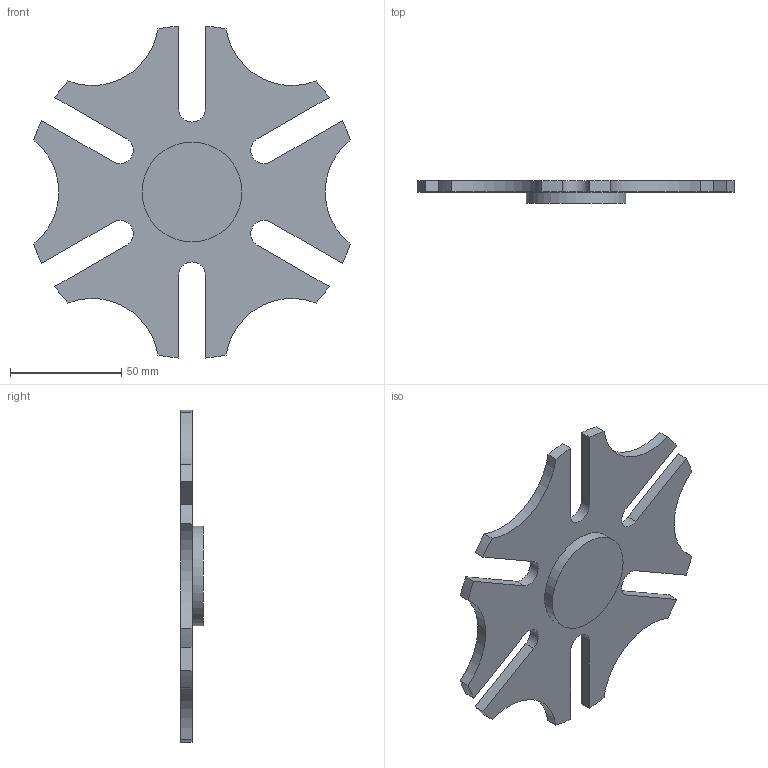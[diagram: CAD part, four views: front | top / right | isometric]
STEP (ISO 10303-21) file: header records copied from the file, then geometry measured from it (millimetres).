
FILE_DESCRIPTION(/* description */ ('STEP AP242 Edition 2','CAx-IF Rec.Pracs.---Representation and Presentation of Product Manufacturing Information (PMI)---4.0---2014-10-13','CAx-IF Rec.Pracs.---3D Tessellated Geometry---0.4---2014-09-14','2;1','CAx-IF Rec.Pracs.---User Defined Attributes---1.5---2016-08-15'),/* implementation_level */ '2;1');
FILE_NAME(/* name */ '695e9158b3563521d1783175',/* time_stamp */ '2026-01-07T17:01:12Z',/* author */ (''),/* organization */ (''),/* preprocessor_version */ 'ST-DEVELOPER v20',/* originating_system */ 'ONSHAPE BY PTC INC, 1.208',/* authorisation */ ' ');
FILE_SCHEMA (('AP242_MANAGED_MODEL_BASED_3D_ENGINEERING_MIM_LF { 1 0 10303 442 3 1 4 }'));
Length unit declared in the file: metre
Products named in the file (1): Part 1
Bounding box: 142.5 x 10 x 149.52 mm (x, y, z)
Volume: 66601.2 mm3; surface area: 29146.5 mm2
Topology: 1 solids, 1 shells, 40 faces, 111 edges, 74 vertices
Faces by surface type: cylinder 25, plane 15
Full cylindrical faces by diameter (mm): 45 x1
Entity records: 1322 total; most frequent: DIRECTION 242, CARTESIAN_POINT 225, ORIENTED_EDGE 220, EDGE_CURVE 110, AXIS2_PLACEMENT_3D 91, VERTEX_POINT 74, LINE 60, VECTOR 60
